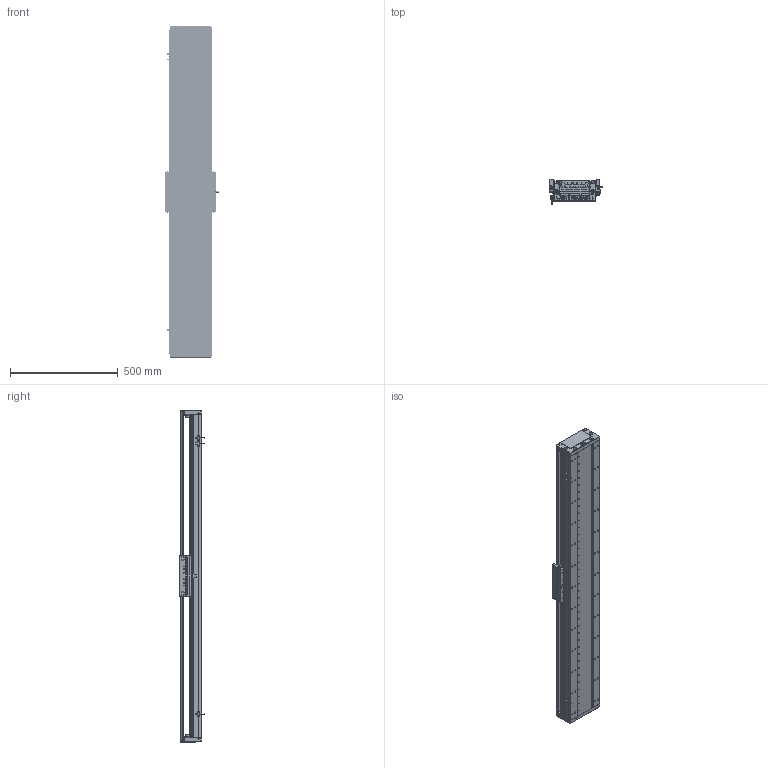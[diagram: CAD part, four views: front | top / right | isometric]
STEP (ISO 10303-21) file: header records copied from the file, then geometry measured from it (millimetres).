
FILE_DESCRIPTION (( 'STEP AP203' ), '1' );
FILE_NAME ('DA-C195-C2-T1260-C010-0.2 眻盄萇儂.STEP', '2025-08-15T01:05:15', ( '' ), ( '' ), 'SwSTEP 2.0', 'SolidWorks 2019', '' );
FILE_SCHEMA (( 'CONFIG_CONTROL_DESIGN' ));
Length unit declared in the file: millimetre
Products named in the file (12): DA-C195-C2-T1260-C010-0.2 眻盄萇儂; 66156-0001-003-00 裔啣; PM-T45ㄗ侂狟ㄘ; 葩璃 DA95-GT-T-00; DA195-DG-H-00  端盖（压铸镂空版）; CU195-C2賑輸-俋楷; IU-CU195-L-00 菁釱(L1500); IU-CU195-L 菁釱絳寢; 66156-0001-005-00 光电感应片(默认); DA95-HXJ-00 遣喳砎蝶; LMT黍杅芛; MS200 棠掑喜S315-T240
Assembly tree (20 placements, depth 3):
  DA-C195-C2-T1260-C010-0.2 眻盄萇儂
    IU-CU195-L 菁釱絳寢
      IU-CU195-L-00 菁釱(L1500)
      葩璃 DA95-GT-T-00  x4
    LMT黍杅芛
    MS200 棠掑喜S315-T240
    PM-T45ㄗ侂狟ㄘ  x3
    66156-0001-005-00 光电感应片(默认)
    DA195-DG-H-00  端盖（压铸镂空版）  x2
    DA95-HXJ-00 遣喳砎蝶  x4
    66156-0001-003-00 裔啣
    CU195-C2賑輸-俋楷
Bounding box: 248 x 115.6 x 1540 mm (x, y, z)
Volume: 10385711.1 mm3; surface area: 2982963.4 mm2
Topology: 58 solids, 130 shells, 5405 faces, 14012 edges, 8553 vertices
Faces by surface type: cylinder 2413, plane 1642, bspline 710, cone 560, torus 44, sphere 36
Entity records: 153239 total; most frequent: CARTESIAN_POINT 48435, ORIENTED_EDGE 22078, DIRECTION 20928, EDGE_CURVE 11039, AXIS2_PLACEMENT_3D 7799, VERTEX_POINT 6983, LINE 5330, VECTOR 5330
